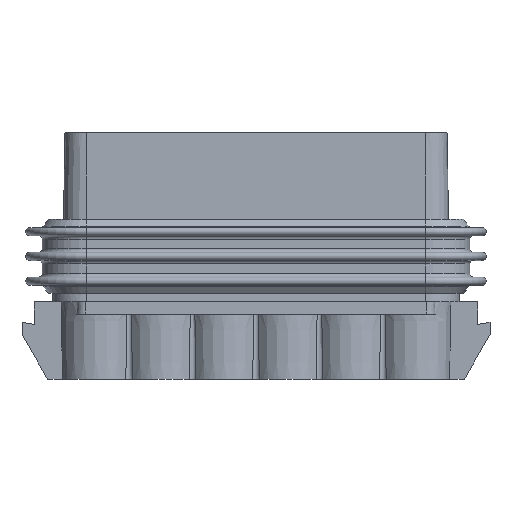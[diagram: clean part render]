
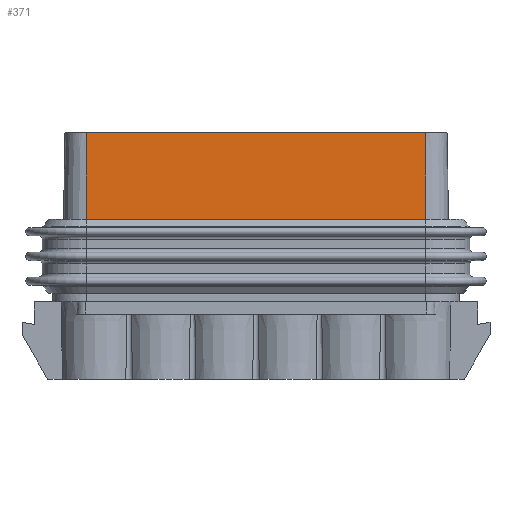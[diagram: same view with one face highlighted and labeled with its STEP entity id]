
A CAD part, front view. The second image highlights one B-rep face of the part: STEP entity #371.
In plain terms, the highlighted planar face has unit normal (0, -1, 0.018).
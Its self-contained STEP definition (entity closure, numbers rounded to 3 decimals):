
#371=ADVANCED_FACE('',(#755),#614,.F.);
#614=PLANE('',#4952);
#755=FACE_OUTER_BOUND('',#1012,.T.);
#1012=EDGE_LOOP('',(#1793,#1794,#1795,#1796));
#1793=ORIENTED_EDGE('',*,*,#3522,.F.);
#1794=ORIENTED_EDGE('',*,*,#3511,.T.);
#1795=ORIENTED_EDGE('',*,*,#3480,.T.);
#1796=ORIENTED_EDGE('',*,*,#3519,.F.);
#2997=VERTEX_POINT('',#7204);
#2998=VERTEX_POINT('',#7206);
#3020=VERTEX_POINT('',#7274);
#3023=VERTEX_POINT('',#7288);
#3480=EDGE_CURVE('',#2998,#2997,#4126,.T.);
#3511=EDGE_CURVE('',#3020,#2998,#4149,.T.);
#3519=EDGE_CURVE('',#3023,#2997,#4154,.T.);
#3522=EDGE_CURVE('',#3020,#3023,#4155,.T.);
#4126=LINE('',#7205,#4533);
#4149=LINE('',#7273,#4556);
#4154=LINE('',#7289,#4561);
#4155=LINE('',#7293,#4562);
#4533=VECTOR('',#5649,1.);
#4556=VECTOR('',#5702,1.);
#4561=VECTOR('',#5721,1.);
#4562=VECTOR('',#5728,1.);
#4952=AXIS2_PLACEMENT_3D('',#7295,#5731,#5732);
#5649=DIRECTION('',(1.,0.,0.));
#5702=DIRECTION('',(0.,-0.017,-1.));
#5721=DIRECTION('',(0.,-0.017,-1.));
#5728=DIRECTION('',(1.,0.,0.));
#5731=DIRECTION('',(0.,1.,-0.017));
#5732=DIRECTION('',(0.,-0.017,-1.));
#7204=CARTESIAN_POINT('',(20.58,-4.365,-6.835));
#7205=CARTESIAN_POINT('',(0.,-4.365,-6.835));
#7206=CARTESIAN_POINT('',(-20.58,-4.365,-6.835));
#7273=CARTESIAN_POINT('',(-20.58,-4.024,12.711));
#7274=CARTESIAN_POINT('',(-20.58,-4.025,12.665));
#7288=CARTESIAN_POINT('',(20.58,-4.025,12.665));
#7289=CARTESIAN_POINT('',(20.58,-4.024,12.711));
#7293=CARTESIAN_POINT('',(-20.58,-4.025,12.665));
#7295=CARTESIAN_POINT('',(0.,-4.025,12.665));
